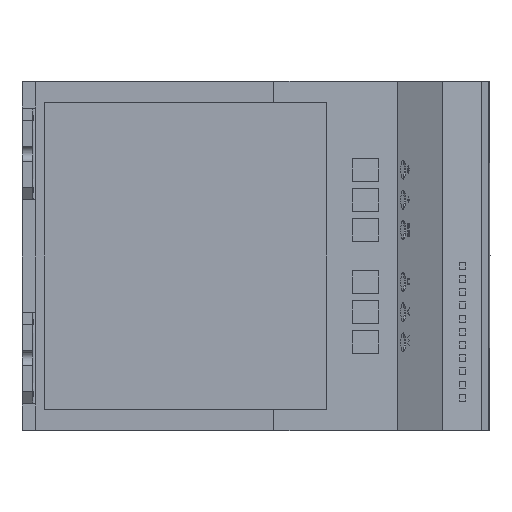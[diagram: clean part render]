
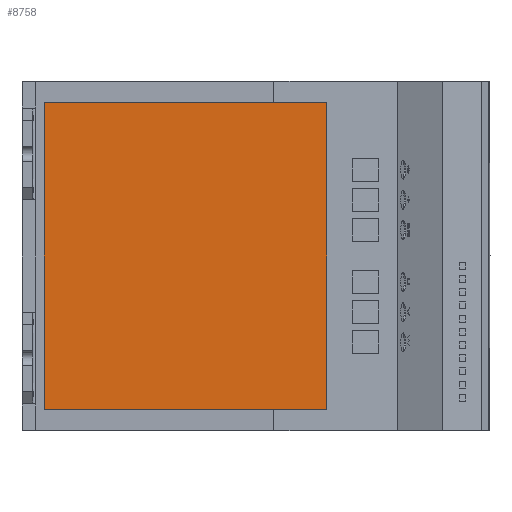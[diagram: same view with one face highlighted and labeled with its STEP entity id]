
A CAD part, front view. The second image highlights one B-rep face of the part: STEP entity #8758.
In plain terms, the highlighted planar face has unit normal (-0.017, -1, 0).
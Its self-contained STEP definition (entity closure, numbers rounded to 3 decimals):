
#764 = EDGE_CURVE ( 'NONE', #9790, #13388, #31021, .T. ) ;
#1291 = EDGE_LOOP ( 'NONE', ( #20356, #29200, #19184, #12136 ) ) ;
#1393 = VERTEX_POINT ( 'NONE', #8547 ) ;
#2352 = AXIS2_PLACEMENT_3D ( 'NONE', #19729, #3044, #12471 ) ;
#2594 = CARTESIAN_POINT ( 'NONE',  ( 68.478, -97.579, 122. ) ) ;
#3044 = DIRECTION ( 'NONE',  ( -0.017, -1., 0. ) ) ;
#3423 = VECTOR ( 'NONE', #3617, 1000. ) ;
#3617 = DIRECTION ( 'NONE',  ( 0., 0., 1. ) ) ;
#5063 = PLANE ( 'NONE',  #2352 ) ;
#5394 = EDGE_CURVE ( 'NONE', #13388, #7510, #12367, .T. ) ;
#6188 = DIRECTION ( 'NONE',  ( -1., 0.017, 0. ) ) ;
#7510 = VERTEX_POINT ( 'NONE', #29016 ) ;
#8547 = CARTESIAN_POINT ( 'NONE',  ( 68.478, -97.579, 8. ) ) ;
#8758 = ADVANCED_FACE ( 'NONE', ( #23177 ), #5063, .T. ) ;
#9790 = VERTEX_POINT ( 'NONE', #18709 ) ;
#12136 = ORIENTED_EDGE ( 'NONE', *, *, #5394, .F. ) ;
#12367 = LINE ( 'NONE', #28789, #16123 ) ;
#12471 = DIRECTION ( 'NONE',  ( 1., -0.017, 0. ) ) ;
#13388 = VERTEX_POINT ( 'NONE', #22531 ) ;
#16123 = VECTOR ( 'NONE', #21541, 1000. ) ;
#17590 = DIRECTION ( 'NONE',  ( 0., 0., -1. ) ) ;
#18036 = CARTESIAN_POINT ( 'NONE',  ( -36.506, -95.747, 8. ) ) ;
#18709 = CARTESIAN_POINT ( 'NONE',  ( -36.506, -95.747, 8. ) ) ;
#19184 = ORIENTED_EDGE ( 'NONE', *, *, #25398, .F. ) ;
#19729 = CARTESIAN_POINT ( 'NONE',  ( -1.681, -96.354, 130. ) ) ;
#20356 = ORIENTED_EDGE ( 'NONE', *, *, #764, .F. ) ;
#21541 = DIRECTION ( 'NONE',  ( 1., -0.017, 0. ) ) ;
#22531 = CARTESIAN_POINT ( 'NONE',  ( -36.506, -95.747, 122. ) ) ;
#22888 = LINE ( 'NONE', #2594, #27865 ) ;
#23177 = FACE_OUTER_BOUND ( 'NONE', #1291, .T. ) ;
#24248 = EDGE_CURVE ( 'NONE', #1393, #9790, #31299, .T. ) ;
#25398 = EDGE_CURVE ( 'NONE', #7510, #1393, #22888, .T. ) ;
#27865 = VECTOR ( 'NONE', #17590, 1000. ) ;
#28041 = CARTESIAN_POINT ( 'NONE',  ( -36.506, -95.747, 122. ) ) ;
#28789 = CARTESIAN_POINT ( 'NONE',  ( -36.506, -95.747, 122. ) ) ;
#29016 = CARTESIAN_POINT ( 'NONE',  ( 68.478, -97.579, 122. ) ) ;
#29200 = ORIENTED_EDGE ( 'NONE', *, *, #24248, .F. ) ;
#30554 = VECTOR ( 'NONE', #6188, 1000. ) ;
#31021 = LINE ( 'NONE', #28041, #3423 ) ;
#31299 = LINE ( 'NONE', #18036, #30554 ) ;
